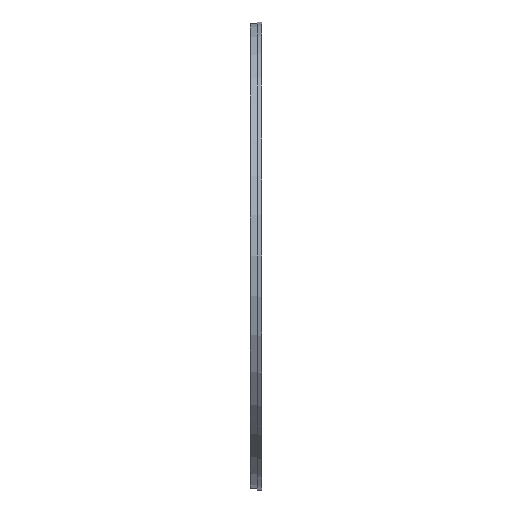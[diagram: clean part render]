
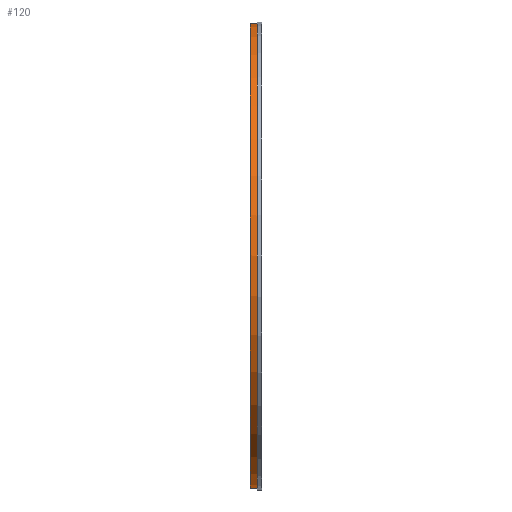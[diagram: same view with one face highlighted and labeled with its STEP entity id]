
A CAD part, left-side view. The second image highlights one B-rep face of the part: STEP entity #120.
In plain terms, the highlighted cylindrical face has radius 39.75 mm (diameter 79.5 mm), a partial arc.
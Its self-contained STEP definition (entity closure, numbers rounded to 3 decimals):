
#26 = VERTEX_POINT ( 'NONE', #660 ) ;
#76 = DIRECTION ( 'NONE',  ( 0., -1., 0. ) ) ;
#120 = ADVANCED_FACE ( 'NONE', ( #809 ), #1125, .T. ) ;
#156 = CARTESIAN_POINT ( 'NONE',  ( 0., 2.001, -39.75 ) ) ;
#186 = ORIENTED_EDGE ( 'NONE', *, *, #1261, .F. ) ;
#234 = CARTESIAN_POINT ( 'NONE',  ( 0., 0.8, 0. ) ) ;
#235 = VERTEX_POINT ( 'NONE', #359 ) ;
#294 = DIRECTION ( 'NONE',  ( 0., 0., -1. ) ) ;
#295 = ORIENTED_EDGE ( 'NONE', *, *, #449, .F. ) ;
#306 = AXIS2_PLACEMENT_3D ( 'NONE', #446, #360, #1112 ) ;
#317 = DIRECTION ( 'NONE',  ( 0., 1., 0. ) ) ;
#324 = VECTOR ( 'NONE', #76, 1000. ) ;
#329 = DIRECTION ( 'NONE',  ( 0., 0., 1. ) ) ;
#338 = EDGE_CURVE ( 'NONE', #1182, #1076, #555, .T. ) ;
#343 = AXIS2_PLACEMENT_3D ( 'NONE', #521, #383, #294 ) ;
#359 = CARTESIAN_POINT ( 'NONE',  ( 0., 0.8, -39.75 ) ) ;
#360 = DIRECTION ( 'NONE',  ( 0., 1., 0. ) ) ;
#383 = DIRECTION ( 'NONE',  ( 0., -1., 0. ) ) ;
#399 = CARTESIAN_POINT ( 'NONE',  ( 0., 2., 39.75 ) ) ;
#431 = VERTEX_POINT ( 'NONE', #487 ) ;
#446 = CARTESIAN_POINT ( 'NONE',  ( 0., 2.001, 0. ) ) ;
#449 = EDGE_CURVE ( 'NONE', #1076, #26, #1111, .T. ) ;
#484 = VECTOR ( 'NONE', #926, 1000. ) ;
#487 = CARTESIAN_POINT ( 'NONE',  ( -0.25, 2.001, -39.749 ) ) ;
#521 = CARTESIAN_POINT ( 'NONE',  ( 0., 2., 0. ) ) ;
#550 = LINE ( 'NONE', #706, #484 ) ;
#554 = DIRECTION ( 'NONE',  ( 0., 1., 0. ) ) ;
#555 = CIRCLE ( 'NONE', #668, 39.75 ) ;
#629 = CIRCLE ( 'NONE', #306, 39.75 ) ;
#660 = CARTESIAN_POINT ( 'NONE',  ( 0., 0.8, 39.75 ) ) ;
#668 = AXIS2_PLACEMENT_3D ( 'NONE', #1078, #554, #982 ) ;
#692 = ORIENTED_EDGE ( 'NONE', *, *, #338, .F. ) ;
#706 = CARTESIAN_POINT ( 'NONE',  ( -0.25, 2.001, -39.749 ) ) ;
#776 = CARTESIAN_POINT ( 'NONE',  ( -0.25, 2., -39.749 ) ) ;
#809 = FACE_OUTER_BOUND ( 'NONE', #1012, .T. ) ;
#814 = CARTESIAN_POINT ( 'NONE',  ( 0., 2., -39.75 ) ) ;
#873 = ORIENTED_EDGE ( 'NONE', *, *, #959, .F. ) ;
#908 = ORIENTED_EDGE ( 'NONE', *, *, #1138, .T. ) ;
#910 = LINE ( 'NONE', #814, #1292 ) ;
#926 = DIRECTION ( 'NONE',  ( 0., -1., 0. ) ) ;
#959 = EDGE_CURVE ( 'NONE', #431, #1182, #550, .T. ) ;
#982 = DIRECTION ( 'NONE',  ( 0., 0., 1. ) ) ;
#1012 = EDGE_LOOP ( 'NONE', ( #295, #692, #873, #186, #1167, #908 ) ) ;
#1037 = CARTESIAN_POINT ( 'NONE',  ( 0., 2., 39.75 ) ) ;
#1043 = VERTEX_POINT ( 'NONE', #156 ) ;
#1068 = AXIS2_PLACEMENT_3D ( 'NONE', #234, #317, #329 ) ;
#1076 = VERTEX_POINT ( 'NONE', #399 ) ;
#1078 = CARTESIAN_POINT ( 'NONE',  ( 0., 2., 0. ) ) ;
#1111 = LINE ( 'NONE', #1037, #324 ) ;
#1112 = DIRECTION ( 'NONE',  ( 0., 0., 1. ) ) ;
#1113 = CIRCLE ( 'NONE', #1068, 39.75 ) ;
#1125 = CYLINDRICAL_SURFACE ( 'NONE', #343, 39.75 ) ;
#1138 = EDGE_CURVE ( 'NONE', #235, #26, #1113, .T. ) ;
#1167 = ORIENTED_EDGE ( 'NONE', *, *, #1304, .T. ) ;
#1182 = VERTEX_POINT ( 'NONE', #776 ) ;
#1226 = DIRECTION ( 'NONE',  ( 0., -1., 0. ) ) ;
#1261 = EDGE_CURVE ( 'NONE', #1043, #431, #629, .T. ) ;
#1292 = VECTOR ( 'NONE', #1226, 1000. ) ;
#1304 = EDGE_CURVE ( 'NONE', #1043, #235, #910, .T. ) ;
